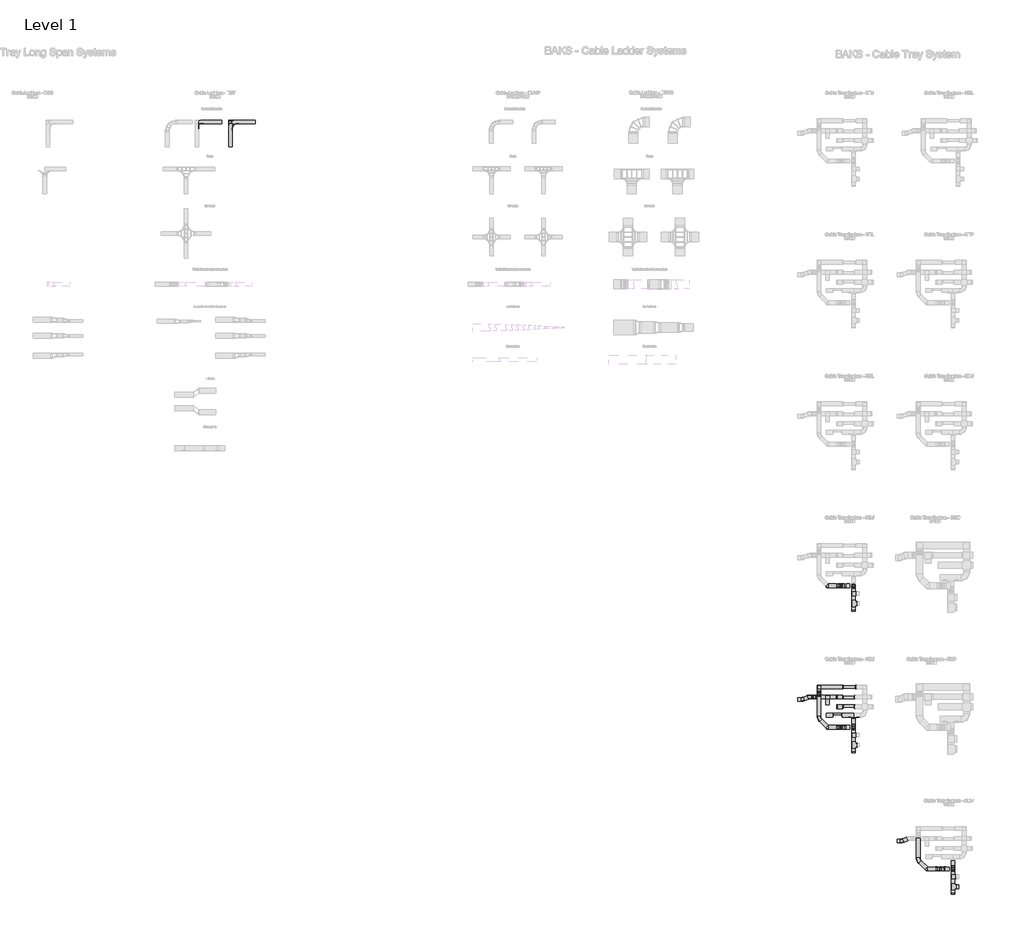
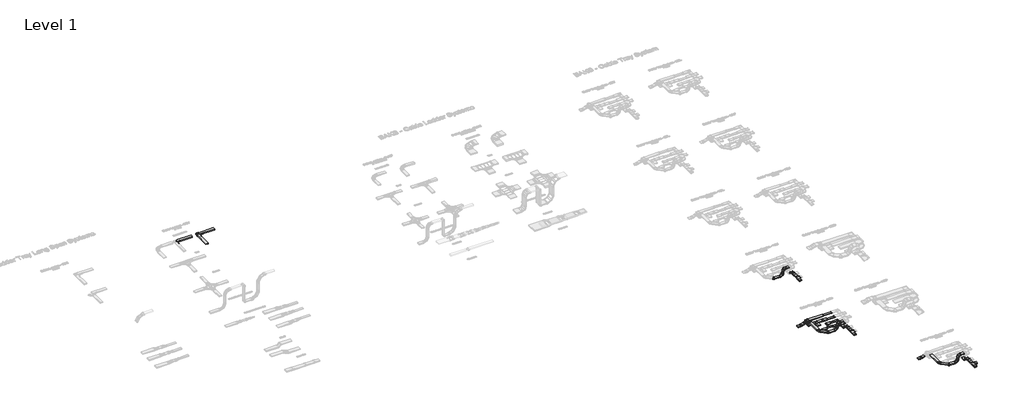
# One storey, part 18 of 106: 76 cable carrier fittings, 49 cable carrier segments.
"""IFC4 building model written with IfcOpenShell, lengths in millimetres."""

from ifc_helpers import new_model, si_unit, frame, origin, place, context, project, spatial, polyline, outline, extrude, transform, mapped, element, save
from components import cable_carrier_fitting_74346276, cable_carrier_fitting_f2f9dd5a, cable_carrier_fitting_50edb55a, cable_carrier_fitting_132c6996, cable_carrier_fitting_cb057536, cable_carrier_fitting_d4f283aa, cable_carrier_fitting_389af67d, cable_carrier_fitting_ab346bf8, cable_carrier_fitting_c163f1ca, cable_carrier_fitting_32826c86, cable_carrier_fitting_42195290, cable_carrier_fitting_1d3f857e, cable_carrier_fitting_81c76d70, cable_carrier_fitting_e69bf5bc, cable_carrier_fitting_b7b75895, cable_carrier_fitting_0afdfe74, cable_carrier_fitting_3a6d649d, cable_carrier_fitting_2d5aa353, cable_carrier_fitting_83230dc4, cable_carrier_fitting_3cbe9e62, cable_carrier_fitting_c86838e9, cable_carrier_fitting_985dcf24, cable_carrier_fitting_ca5a2d19, cable_carrier_fitting_21169ac5, cable_carrier_fitting_0a0ebc2e, cable_carrier_fitting_a42b7499, cable_carrier_fitting_8394cd73, cable_carrier_fitting_46bfce34, cable_carrier_fitting_f50788b4, cable_carrier_fitting_851eb94e, cable_carrier_fitting_844d2b92, cable_carrier_fitting_c0e00dde

model = new_model("IFC4")

# Units and contexts
model_context = context("Model", 3, world=origin())
ifc_project = project(units=[si_unit("LENGTHUNIT", "METRE", prefix="MILLI")], contexts=[model_context])

# Site, building, storey
site = spatial("IfcSite", under=ifc_project)
building = spatial("IfcBuilding", under=site)
storey = spatial("IfcBuildingStorey", under=building, Name="Level 1", Elevation=0.0)

# Cable carrier fittings
placement = place(None, origin())
cable_carrier_fitting_shape = cable_carrier_fitting_74346276(model_context)
element("IfcCableCarrierFitting", 1, ObjectType="BAKS_LDLS_CONN_Inner extension straight connector_LDUW : LDUW_H100", at=placement, inside=storey, context=model_context, shape_type="MappedRepresentation", body=[
    mapped(cable_carrier_fitting_shape, transform((109719.5117541, 69122.6565861, 55.0), x_axis=(-1.0, 0.0, 0.0), y_axis=(0.0, -1.0, 0.0), z_axis=(0.0, 0.0, 1.0))),
])
cable_carrier_fitting_2_shape = cable_carrier_fitting_f2f9dd5a(model_context)
element("IfcCableCarrierFitting", 2, ObjectType="BAKS_LDLS_CONN_Outer straight connector angled_LKUZ : LKUZ_H100", at=placement, inside=storey, context=model_context, shape_type="MappedRepresentation", body=[
    mapped(cable_carrier_fitting_2_shape, transform((109419.5117541, 69422.6565861, 55.0), x_axis=(-1.0, 0.0, 0.0), y_axis=(0.0, -1.0, 0.0), z_axis=(0.0, 0.0, 1.0))),
])
cable_carrier_fitting_3_shape = cable_carrier_fitting_50edb55a(model_context)
element("IfcCableCarrierFitting", 3, ObjectType="BAKS_LDLS_BEND_LDDSC Extension arch set_LDUWxLKUZ : LDDSC_H100", at=placement, inside=storey, context=model_context, shape_type="MappedRepresentation", body=[
    mapped(cable_carrier_fitting_3_shape, transform((109569.5117541, 69272.6565861, 55.0), x_axis=(-1.0, 0.0, 0.0), y_axis=(0.0, -1.0, 0.0), z_axis=(0.0, 0.0, 1.0))),
])
cable_carrier_fitting_4_shape = cable_carrier_fitting_132c6996(model_context)
element("IfcCableCarrierFitting", 4, ObjectType="BAKS_LDLS_CONN_Angle connector_LKSU : LKSUT_H100", at=placement, inside=storey, context=model_context, shape_type="MappedRepresentation", body=[
    mapped(cable_carrier_fitting_4_shape, transform((107019.5117541, 69122.6565861, 55.0), x_axis=(-1.0, 0.0, 0.0), y_axis=(0.0, -1.0, 0.0), z_axis=(0.0, 0.0, 1.0))),
])
cable_carrier_fitting_5_shape = cable_carrier_fitting_cb057536(model_context)
element("IfcCableCarrierFitting", 5, ObjectType="BAKS_BEND_Adjustable vertical bend element_EL : ELP_H100", at=placement, inside=storey, context=model_context, shape_type="MappedRepresentation", body=[
    mapped(cable_carrier_fitting_5_shape, transform((158633.2340999, 31931.3714214, 322.7153903), x_axis=(0.4999999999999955, 0.0, 0.8660254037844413), y_axis=(0.0, 1.0, 0.0), z_axis=(-0.8660254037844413, 0.0, 0.4999999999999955))),
])
element("IfcCableCarrierFitting", 6, ObjectType="BAKS_BEND_Adjustable vertical bend element_EL : ELP_H100", at=placement, inside=storey, context=model_context, shape_type="MappedRepresentation", body=[
    mapped(cable_carrier_fitting_5_shape, transform((158436.5219776, 31931.3714214, 223.0), x_axis=(0.8660254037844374, 0.0, 0.5000000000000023), y_axis=(0.0, 1.0, 0.0), z_axis=(-0.5000000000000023, 0.0, 0.8660254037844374))),
])
element("IfcCableCarrierFitting", 7, ObjectType="BAKS_BEND_Adjustable vertical bend element_EL : ELP_H100", at=placement, inside=storey, context=model_context, shape_type="MappedRepresentation", body=[
    mapped(cable_carrier_fitting_5_shape, transform((158841.4494902, 31931.3714214, 936.9011537), x_axis=(0.8660254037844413, 0.0, 0.4999999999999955), y_axis=(0.0, -1.0, 0.0), z_axis=(0.4999999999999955, 0.0, -0.8660254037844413))),
])
element("IfcCableCarrierFitting", 8, ObjectType="BAKS_BEND_Adjustable vertical bend element_EL : ELP_H100", at=placement, inside=storey, context=model_context, shape_type="MappedRepresentation", body=[
    mapped(cable_carrier_fitting_5_shape, transform((158741.7340999, 31931.3714214, 740.1890314), x_axis=(0.5000000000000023, 0.0, 0.8660254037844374), y_axis=(0.0, -1.0, 0.0), z_axis=(0.8660254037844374, 0.0, -0.5000000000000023))),
])
element("IfcCableCarrierFitting", 9, ObjectType="BAKS_BEND_Adjustable vertical bend element_EL : ELP_H100", at=placement, inside=storey, context=model_context, shape_type="MappedRepresentation", body=[
    mapped(cable_carrier_fitting_5_shape, transform((158633.2340999, 20531.3714214, 322.7153903), x_axis=(0.4999999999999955, 0.0, 0.8660254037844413), y_axis=(0.0, 1.0, 0.0), z_axis=(-0.8660254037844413, 0.0, 0.4999999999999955))),
])
element("IfcCableCarrierFitting", 10, ObjectType="BAKS_BEND_Adjustable vertical bend element_EL : ELP_H100", at=placement, inside=storey, context=model_context, shape_type="MappedRepresentation", body=[
    mapped(cable_carrier_fitting_5_shape, transform((158436.5219776, 20531.3714214, 223.0), x_axis=(0.8660254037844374, 0.0, 0.5000000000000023), y_axis=(0.0, 1.0, 0.0), z_axis=(-0.5000000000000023, 0.0, 0.8660254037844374))),
])
element("IfcCableCarrierFitting", 11, ObjectType="BAKS_BEND_Adjustable vertical bend element_EL : ELP_H100", at=placement, inside=storey, context=model_context, shape_type="MappedRepresentation", body=[
    mapped(cable_carrier_fitting_5_shape, transform((158841.4494902, 20531.3714214, 936.9011537), x_axis=(0.8660254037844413, 0.0, 0.4999999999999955), y_axis=(0.0, -1.0, 0.0), z_axis=(0.4999999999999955, 0.0, -0.8660254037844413))),
])
element("IfcCableCarrierFitting", 12, ObjectType="BAKS_BEND_Adjustable vertical bend element_EL : ELP_H100", at=placement, inside=storey, context=model_context, shape_type="MappedRepresentation", body=[
    mapped(cable_carrier_fitting_5_shape, transform((158741.7340999, 20531.3714214, 740.1890314), x_axis=(0.5000000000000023, 0.0, 0.8660254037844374), y_axis=(0.0, -1.0, 0.0), z_axis=(0.8660254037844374, 0.0, -0.5000000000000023))),
])
element("IfcCableCarrierFitting", 13, ObjectType="BAKS_BEND_Adjustable vertical bend element_EL : ELP_H100", at=placement, inside=storey, context=model_context, shape_type="MappedRepresentation", body=[
    mapped(cable_carrier_fitting_5_shape, transform((166633.2340999, 9131.3714214, 322.7153903), x_axis=(0.4999999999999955, 0.0, 0.8660254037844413), y_axis=(0.0, 1.0, 0.0), z_axis=(-0.8660254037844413, 0.0, 0.4999999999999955))),
])
element("IfcCableCarrierFitting", 14, ObjectType="BAKS_BEND_Adjustable vertical bend element_EL : ELP_H100", at=placement, inside=storey, context=model_context, shape_type="MappedRepresentation", body=[
    mapped(cable_carrier_fitting_5_shape, transform((166436.5219776, 9131.3714214, 223.0), x_axis=(0.8660254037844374, 0.0, 0.5000000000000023), y_axis=(0.0, 1.0, 0.0), z_axis=(-0.5000000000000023, 0.0, 0.8660254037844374))),
])
element("IfcCableCarrierFitting", 15, ObjectType="BAKS_BEND_Adjustable vertical bend element_EL : ELP_H100", at=placement, inside=storey, context=model_context, shape_type="MappedRepresentation", body=[
    mapped(cable_carrier_fitting_5_shape, transform((166841.4494902, 9131.3714214, 936.9011537), x_axis=(0.8660254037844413, 0.0, 0.4999999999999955), y_axis=(0.0, -1.0, 0.0), z_axis=(0.4999999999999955, 0.0, -0.8660254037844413))),
])
element("IfcCableCarrierFitting", 16, ObjectType="BAKS_BEND_Adjustable vertical bend element_EL : ELP_H100", at=placement, inside=storey, context=model_context, shape_type="MappedRepresentation", body=[
    mapped(cable_carrier_fitting_5_shape, transform((166741.7340999, 9131.3714214, 740.1890314), x_axis=(0.5000000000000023, 0.0, 0.8660254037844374), y_axis=(0.0, -1.0, 0.0), z_axis=(0.8660254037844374, 0.0, -0.5000000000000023))),
])
cable_carrier_fitting_6_shape = cable_carrier_fitting_d4f283aa(model_context)
element("IfcCableCarrierFitting", 17, ObjectType="BAKS_Reducer : RK(S/L/P)J_H100", at=placement, inside=storey, context=model_context, shape_type="MappedRepresentation", body=[
    mapped(cable_carrier_fitting_6_shape, transform((159753.8329462, 29894.2974728, 432.5277378), x_axis=(0.0, 1.0, 0.0), y_axis=(-1.0, 0.0, 0.0), z_axis=(0.0, 0.0, 1.0))),
])
element("IfcCableCarrierFitting", 18, ObjectType="BAKS_Reducer : RK(S/L/P)J_H100", at=placement, inside=storey, context=model_context, shape_type="MappedRepresentation", body=[
    mapped(cable_carrier_fitting_6_shape, transform((158399.3329462, 22980.8714214, 0.0), x_axis=(1.0, 0.0, 0.0), y_axis=(0.0, 1.0, 0.0), z_axis=(0.0, 0.0, 1.0))),
])
element("IfcCableCarrierFitting", 19, ObjectType="BAKS_Reducer : RK(S/L/P)J_H100", at=placement, inside=storey, context=model_context, shape_type="MappedRepresentation", body=[
    mapped(cable_carrier_fitting_6_shape, transform((158399.3329462, 22980.8714214, 0.0), x_axis=(-1.0, 0.0, 0.0), y_axis=(0.0, -1.0, 0.0), z_axis=(0.0, 0.0, 1.0))),
])
element("IfcCableCarrierFitting", 20, ObjectType="BAKS_Reducer : RK(S/L/P)J_H100", at=placement, inside=storey, context=model_context, shape_type="MappedRepresentation", body=[
    mapped(cable_carrier_fitting_6_shape, transform((158377.8329462, 22180.8714214, 0.0), x_axis=(1.0, 0.0, 0.0), y_axis=(0.0, 1.0, 0.0), z_axis=(0.0, 0.0, 1.0))),
])
element("IfcCableCarrierFitting", 21, ObjectType="BAKS_Reducer : RK(S/L/P)J_H100", at=placement, inside=storey, context=model_context, shape_type="MappedRepresentation", body=[
    mapped(cable_carrier_fitting_6_shape, transform((159753.8329462, 18494.2974728, 432.5277378), x_axis=(0.0, 1.0, 0.0), y_axis=(-1.0, 0.0, 0.0), z_axis=(0.0, 0.0, 1.0))),
])
cable_carrier_fitting_7_shape = cable_carrier_fitting_389af67d(model_context)
element("IfcCableCarrierFitting", 22, ObjectType="BAKS_Reducer : RK(S/L/P)J_H100", at=placement, inside=storey, context=model_context, shape_type="MappedRepresentation", body=[
    mapped(cable_carrier_fitting_7_shape, transform((158856.8329462, 23780.8714214, 0.0), x_axis=(1.0, 0.0, 0.0), y_axis=(0.0, 1.0, 0.0), z_axis=(0.0, 0.0, 1.0))),
])
cable_carrier_fitting_8_shape = cable_carrier_fitting_ab346bf8(model_context)
element("IfcCableCarrierFitting", 23, ObjectType="BAKS_Reducer : RK(S/L/P)J_H100", at=placement, inside=storey, context=model_context, shape_type="MappedRepresentation", body=[
    mapped(cable_carrier_fitting_8_shape, transform((159856.8329462, 23780.8714214, 0.0), x_axis=(1.0, 0.0, 0.0), y_axis=(0.0, 1.0, 0.0), z_axis=(0.0, 0.0, 1.0))),
])
cable_carrier_fitting_9_shape = cable_carrier_fitting_c163f1ca(model_context)
element("IfcCableCarrierFitting", 24, ObjectType="BAKS_Reducer : RK(S/L/P)J_H100", at=placement, inside=storey, context=model_context, shape_type="MappedRepresentation", body=[
    mapped(cable_carrier_fitting_9_shape, transform((159761.8329462, 22930.8714214, 0.0), x_axis=(1.0, 0.0, 0.0), y_axis=(0.0, 1.0, 0.0), z_axis=(0.0, 0.0, 1.0))),
])
element("IfcCableCarrierFitting", 25, ObjectType="BAKS_Reducer : RK(S/L/P)J_H100", at=placement, inside=storey, context=model_context, shape_type="MappedRepresentation", body=[
    mapped(cable_carrier_fitting_9_shape, transform((158951.8329462, 22230.8714214, 0.0), x_axis=(-1.0, 0.0, 0.0), y_axis=(0.0, -1.0, 0.0), z_axis=(0.0, 0.0, 1.0))),
])
cable_carrier_fitting_10_shape = cable_carrier_fitting_32826c86(model_context)
element("IfcCableCarrierFitting", 26, ObjectType="BAKS_Reducer : RK(S/L/P)J_H100", at=placement, inside=storey, context=model_context, shape_type="MappedRepresentation", body=[
    mapped(cable_carrier_fitting_10_shape, transform((158951.8329462, 22930.8714214, 0.0), x_axis=(-1.0, 0.0, 0.0), y_axis=(0.0, -1.0, 0.0), z_axis=(0.0, 0.0, 1.0))),
])
element("IfcCableCarrierFitting", 27, ObjectType="BAKS_Reducer : RK(S/L/P)J_H100", at=placement, inside=storey, context=model_context, shape_type="MappedRepresentation", body=[
    mapped(cable_carrier_fitting_10_shape, transform((159761.8329462, 22230.8714214, 0.0), x_axis=(1.0, 0.0, 0.0), y_axis=(0.0, 1.0, 0.0), z_axis=(0.0, 0.0, 1.0))),
])
cable_carrier_fitting_11_shape = cable_carrier_fitting_42195290(model_context)
element("IfcCableCarrierFitting", 28, ObjectType="BAKS_Horizontal bend : KKJ/KKMJ_H100", at=placement, inside=storey, context=model_context, shape_type="MappedRepresentation", body=[
    mapped(cable_carrier_fitting_11_shape, transform((156956.8329462, 23780.8714214, 0.0), x_axis=(-1.0, 0.0, 0.0), y_axis=(0.0, -1.0, 0.0), z_axis=(0.0, 0.0, 1.0))),
])
cable_carrier_fitting_12_shape = cable_carrier_fitting_1d3f857e(model_context)
element("IfcCableCarrierFitting", 29, ObjectType="BAKS_Horizontal bend radius : KKPJ/KKMPJ_H100", at=placement, inside=storey, context=model_context, shape_type="MappedRepresentation", body=[
    mapped(cable_carrier_fitting_12_shape, transform((156956.8329462, 21230.8714214, 235.0), x_axis=(0.0, -1.0, 0.0), y_axis=(1.0, 0.0, 0.0), z_axis=(0.0, 0.0, 1.0))),
])
element("IfcCableCarrierFitting", 30, ObjectType="BAKS_Horizontal bend radius : KKPJ/KKMPJ_H100", at=placement, inside=storey, context=model_context, shape_type="MappedRepresentation", body=[
    mapped(cable_carrier_fitting_12_shape, transform((164956.8329462, 9830.8714214, 235.0), x_axis=(0.0, -1.0, 0.0), y_axis=(1.0, 0.0, 0.0), z_axis=(0.0, 0.0, 1.0))),
])
cable_carrier_fitting_13_shape = cable_carrier_fitting_81c76d70(model_context)
element("IfcCableCarrierFitting", 31, ObjectType="BAKS_Horizontal addon tee : TKDJ_H100", at=placement, inside=storey, context=model_context, shape_type="MappedRepresentation", body=[
    mapped(cable_carrier_fitting_13_shape, transform((159753.8329462, 21499.8714214, 0.0), x_axis=(1.0, 0.0, 0.0), y_axis=(0.0, 1.0, 0.0), z_axis=(0.0, 0.0, 1.0))),
])
cable_carrier_fitting_14_shape = cable_carrier_fitting_e69bf5bc(model_context)
element("IfcCableCarrierFitting", 32, ObjectType="BAKS_Reducer : RK(S/L/P)J_H100", at=placement, inside=storey, context=model_context, shape_type="MappedRepresentation", body=[
    mapped(cable_carrier_fitting_14_shape, transform((158750.8329462, 21599.8714214, 0.0), x_axis=(1.0, 0.0, 0.0), y_axis=(0.0, 1.0, 0.0), z_axis=(0.0, 0.0, 1.0))),
])
cable_carrier_fitting_15_shape = cable_carrier_fitting_b7b75895(model_context)
element("IfcCableCarrierFitting", 33, ObjectType="BAKS_Reducer : RK(S/L/P)J_H100", at=placement, inside=storey, context=model_context, shape_type="MappedRepresentation", body=[
    mapped(cable_carrier_fitting_15_shape, transform((158152.8329462, 21599.8714214, 0.0), x_axis=(-1.0, 0.0, 0.0), y_axis=(0.0, -1.0, 0.0), z_axis=(0.0, 0.0, 1.0))),
])
cable_carrier_fitting_16_shape = cable_carrier_fitting_0afdfe74(model_context)
element("IfcCableCarrierFitting", 34, ObjectType="BAKS_Horizontal tee : TKJ_H100", at=placement, inside=storey, context=model_context, shape_type="MappedRepresentation", body=[
    mapped(cable_carrier_fitting_16_shape, transform((159753.8329462, 31303.8631068, 432.5277378), x_axis=(0.0, 1.0, 0.0), y_axis=(-1.0, 0.0, 0.0), z_axis=(0.0, 0.0, 1.0))),
])
element("IfcCableCarrierFitting", 35, ObjectType="BAKS_Horizontal tee : TKJ_H100", at=placement, inside=storey, context=model_context, shape_type="MappedRepresentation", body=[
    mapped(cable_carrier_fitting_16_shape, transform((157656.3329462, 22980.8714214, 0.0), x_axis=(1.0, 0.0, 0.0), y_axis=(0.0, 1.0, 0.0), z_axis=(0.0, 0.0, 1.0))),
])
element("IfcCableCarrierFitting", 36, ObjectType="BAKS_Horizontal tee : TKJ_H100", at=placement, inside=storey, context=model_context, shape_type="MappedRepresentation", body=[
    mapped(cable_carrier_fitting_16_shape, transform((159753.8329462, 19903.8631068, 432.5277378), x_axis=(0.0, 1.0, 0.0), y_axis=(-1.0, 0.0, 0.0), z_axis=(0.0, 0.0, 1.0))),
])
cable_carrier_fitting_17_shape = cable_carrier_fitting_3a6d649d(model_context)
element("IfcCableCarrierFitting", 37, ObjectType="BAKS_Horizontal bend radius : KKPJ/KKMPJ_H100", at=placement, inside=storey, context=model_context, shape_type="MappedRepresentation", body=[
    mapped(cable_carrier_fitting_17_shape, transform((156186.1981218, 22980.8714214, 438.0), x_axis=(-1.0, 0.0, 0.0), y_axis=(0.0, -1.0, 0.0), z_axis=(0.0, 0.0, 1.0))),
])
element("IfcCableCarrierFitting", 38, ObjectType="BAKS_Horizontal bend radius : KKPJ/KKMPJ_H100", at=placement, inside=storey, context=model_context, shape_type="MappedRepresentation", body=[
    mapped(cable_carrier_fitting_17_shape, transform((155630.7130894, 22778.691404, 438.0), x_axis=(1.0, 0.0, 0.0), y_axis=(0.0, 1.0, 0.0), z_axis=(0.0, 0.0, 1.0))),
])
element("IfcCableCarrierFitting", 39, ObjectType="BAKS_Horizontal bend radius : KKPJ/KKMPJ_H100", at=placement, inside=storey, context=model_context, shape_type="MappedRepresentation", body=[
    mapped(cable_carrier_fitting_17_shape, transform((163630.7130894, 11378.691404, 438.0), x_axis=(1.0, 0.0, 0.0), y_axis=(0.0, 1.0, 0.0), z_axis=(0.0, 0.0, 1.0))),
])
cable_carrier_fitting_18_shape = cable_carrier_fitting_2d5aa353(model_context)
element("IfcCableCarrierFitting", 40, ObjectType="BAKS_BEND_Articulated connector_LGP : LGP_H100", at=placement, inside=storey, context=model_context, shape_type="MappedRepresentation", body=[
    mapped(cable_carrier_fitting_18_shape, transform((158457.3065873, 31781.3714214, 235.0), x_axis=(1.0, 0.0, 0.0), y_axis=(0.0, 0.0, 1.0), z_axis=(0.0, -1.0, 0.0))),
])
element("IfcCableCarrierFitting", 41, ObjectType="BAKS_BEND_Articulated connector_LGP : LGP_H100", at=placement, inside=storey, context=model_context, shape_type="MappedRepresentation", body=[
    mapped(cable_carrier_fitting_18_shape, transform((158457.3065873, 20381.3714214, 235.0), x_axis=(1.0, 0.0, 0.0), y_axis=(0.0, 0.0, 1.0), z_axis=(0.0, -1.0, 0.0))),
])
element("IfcCableCarrierFitting", 42, ObjectType="BAKS_BEND_Articulated connector_LGP : LGP_H100", at=placement, inside=storey, context=model_context, shape_type="MappedRepresentation", body=[
    mapped(cable_carrier_fitting_18_shape, transform((158753.7340999, 20681.3714214, 760.9736411), x_axis=(0.0, 0.0, 1.0), y_axis=(1.0, 0.0, 0.0), z_axis=(0.0, 1.0, 0.0))),
])
element("IfcCableCarrierFitting", 43, ObjectType="BAKS_BEND_Articulated connector_LGP : LGP_H100", at=placement, inside=storey, context=model_context, shape_type="MappedRepresentation", body=[
    mapped(cable_carrier_fitting_18_shape, transform((166457.3065873, 8981.3714214, 235.0), x_axis=(1.0, 0.0, 0.0), y_axis=(0.0, 0.0, 1.0), z_axis=(0.0, -1.0, 0.0))),
])
element("IfcCableCarrierFitting", 44, ObjectType="BAKS_BEND_Articulated connector_LGP : LGP_H100", at=placement, inside=storey, context=model_context, shape_type="MappedRepresentation", body=[
    mapped(cable_carrier_fitting_18_shape, transform((166753.7340999, 9281.3714214, 760.9736411), x_axis=(0.0, 0.0, 1.0), y_axis=(1.0, 0.0, 0.0), z_axis=(0.0, 1.0, 0.0))),
])
cable_carrier_fitting_19_shape = cable_carrier_fitting_83230dc4(model_context)
element("IfcCableCarrierFitting", 45, ObjectType="BAKS_BEND_Articulated connector_LGP : LGP_H100", at=placement, inside=storey, context=model_context, shape_type="MappedRepresentation", body=[
    mapped(cable_carrier_fitting_19_shape, transform((158753.7340999, 31781.3714214, 531.4275126), x_axis=(0.4999999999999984, 0.0, 0.8660254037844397), y_axis=(-0.8660254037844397, 0.0, 0.4999999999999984), z_axis=(0.0, -1.0, 0.0))),
])
element("IfcCableCarrierFitting", 46, ObjectType="BAKS_BEND_Articulated connector_LGP : LGP_H100", at=placement, inside=storey, context=model_context, shape_type="MappedRepresentation", body=[
    mapped(cable_carrier_fitting_19_shape, transform((158753.7340999, 20381.3714214, 531.4275126), x_axis=(0.4999999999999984, 0.0, 0.8660254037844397), y_axis=(-0.8660254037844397, 0.0, 0.4999999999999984), z_axis=(0.0, -1.0, 0.0))),
])
element("IfcCableCarrierFitting", 47, ObjectType="BAKS_BEND_Articulated connector_LGP : LGP_H100", at=placement, inside=storey, context=model_context, shape_type="MappedRepresentation", body=[
    mapped(cable_carrier_fitting_19_shape, transform((159050.1616126, 20681.3714214, 1057.4011537), x_axis=(0.8660254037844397, 0.0, 0.4999999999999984), y_axis=(0.4999999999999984, 0.0, -0.8660254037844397), z_axis=(0.0, 1.0, 0.0))),
])
element("IfcCableCarrierFitting", 48, ObjectType="BAKS_BEND_Articulated connector_LGP : LGP_H100", at=placement, inside=storey, context=model_context, shape_type="MappedRepresentation", body=[
    mapped(cable_carrier_fitting_19_shape, transform((166753.7340999, 8981.3714214, 531.4275126), x_axis=(0.4999999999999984, 0.0, 0.8660254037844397), y_axis=(-0.8660254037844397, 0.0, 0.4999999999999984), z_axis=(0.0, -1.0, 0.0))),
])
element("IfcCableCarrierFitting", 49, ObjectType="BAKS_BEND_Articulated connector_LGP : LGP_H100", at=placement, inside=storey, context=model_context, shape_type="MappedRepresentation", body=[
    mapped(cable_carrier_fitting_19_shape, transform((167050.1616126, 9281.3714214, 1057.4011537), x_axis=(0.8660254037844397, 0.0, 0.4999999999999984), y_axis=(0.4999999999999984, 0.0, -0.8660254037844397), z_axis=(0.0, 1.0, 0.0))),
])
cable_carrier_fitting_20_shape = cable_carrier_fitting_3cbe9e62(model_context)
element("IfcCableCarrierFitting", 50, ObjectType="BAKS_BEND_Articulated connector_LGP : LGP_H100", at=placement, inside=storey, context=model_context, shape_type="MappedRepresentation", body=[
    mapped(cable_carrier_fitting_20_shape, transform((159050.1616126, 31781.3714214, 1057.4011537), x_axis=(0.8660254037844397, 0.0, 0.4999999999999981), y_axis=(-0.4999999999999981, 0.0, 0.8660254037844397), z_axis=(0.0, -1.0, 0.0))),
])
element("IfcCableCarrierFitting", 51, ObjectType="BAKS_BEND_Articulated connector_LGP : LGP_H100", at=placement, inside=storey, context=model_context, shape_type="MappedRepresentation", body=[
    mapped(cable_carrier_fitting_20_shape, transform((158753.7340999, 20681.3714214, 531.4275126), x_axis=(0.4999999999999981, 0.0, 0.8660254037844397), y_axis=(0.8660254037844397, 0.0, -0.4999999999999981), z_axis=(0.0, 1.0, 0.0))),
])
element("IfcCableCarrierFitting", 52, ObjectType="BAKS_BEND_Articulated connector_LGP : LGP_H100", at=placement, inside=storey, context=model_context, shape_type="MappedRepresentation", body=[
    mapped(cable_carrier_fitting_20_shape, transform((159050.1616126, 20381.3714214, 1057.4011537), x_axis=(0.8660254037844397, 0.0, 0.4999999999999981), y_axis=(-0.4999999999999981, 0.0, 0.8660254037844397), z_axis=(0.0, -1.0, 0.0))),
])
element("IfcCableCarrierFitting", 53, ObjectType="BAKS_BEND_Articulated connector_LGP : LGP_H100", at=placement, inside=storey, context=model_context, shape_type="MappedRepresentation", body=[
    mapped(cable_carrier_fitting_20_shape, transform((166753.7340999, 9281.3714214, 531.4275126), x_axis=(0.4999999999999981, 0.0, 0.8660254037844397), y_axis=(0.8660254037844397, 0.0, -0.4999999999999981), z_axis=(0.0, 1.0, 0.0))),
])
element("IfcCableCarrierFitting", 54, ObjectType="BAKS_BEND_Articulated connector_LGP : LGP_H100", at=placement, inside=storey, context=model_context, shape_type="MappedRepresentation", body=[
    mapped(cable_carrier_fitting_20_shape, transform((167050.1616126, 8981.3714214, 1057.4011537), x_axis=(0.8660254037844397, 0.0, 0.4999999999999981), y_axis=(-0.4999999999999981, 0.0, 0.8660254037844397), z_axis=(0.0, -1.0, 0.0))),
])
cable_carrier_fitting_21_shape = cable_carrier_fitting_c86838e9(model_context)
element("IfcCableCarrierFitting", 55, ObjectType="BAKS_BEND_Articulated connector_LGP : LGP_H100", at=placement, inside=storey, context=model_context, shape_type="MappedRepresentation", body=[
    mapped(cable_carrier_fitting_21_shape, transform((158753.7340999, 31781.3714214, 760.9736411), x_axis=(0.0, 0.0, 1.0), y_axis=(-1.0, 0.0, 0.0), z_axis=(0.0, -1.0, 0.0))),
])
element("IfcCableCarrierFitting", 56, ObjectType="BAKS_BEND_Articulated connector_LGP : LGP_H100", at=placement, inside=storey, context=model_context, shape_type="MappedRepresentation", body=[
    mapped(cable_carrier_fitting_21_shape, transform((158457.3065873, 20681.3714214, 235.0), x_axis=(1.0, 0.0, 0.0), y_axis=(0.0, 0.0, -1.0), z_axis=(0.0, 1.0, 0.0))),
])
element("IfcCableCarrierFitting", 57, ObjectType="BAKS_BEND_Articulated connector_LGP : LGP_H100", at=placement, inside=storey, context=model_context, shape_type="MappedRepresentation", body=[
    mapped(cable_carrier_fitting_21_shape, transform((158753.7340999, 20381.3714214, 760.9736411), x_axis=(0.0, 0.0, 1.0), y_axis=(-1.0, 0.0, 0.0), z_axis=(0.0, -1.0, 0.0))),
])
element("IfcCableCarrierFitting", 58, ObjectType="BAKS_BEND_Articulated connector_LGP : LGP_H100", at=placement, inside=storey, context=model_context, shape_type="MappedRepresentation", body=[
    mapped(cable_carrier_fitting_21_shape, transform((166457.3065873, 9281.3714214, 235.0), x_axis=(1.0, 0.0, 0.0), y_axis=(0.0, 0.0, -1.0), z_axis=(0.0, 1.0, 0.0))),
])
element("IfcCableCarrierFitting", 59, ObjectType="BAKS_BEND_Articulated connector_LGP : LGP_H100", at=placement, inside=storey, context=model_context, shape_type="MappedRepresentation", body=[
    mapped(cable_carrier_fitting_21_shape, transform((166753.7340999, 8981.3714214, 760.9736411), x_axis=(0.0, 0.0, 1.0), y_axis=(-1.0, 0.0, 0.0), z_axis=(0.0, -1.0, 0.0))),
])
cable_carrier_fitting_22_shape = cable_carrier_fitting_985dcf24(model_context)
element("IfcCableCarrierFitting", 60, ObjectType="BAKS_Horizontal bend : KKJ/KKMJ_H100", at=placement, inside=storey, context=model_context, shape_type="MappedRepresentation", body=[
    mapped(cable_carrier_fitting_22_shape, transform((157656.3329462, 31931.3714214, 235.0), x_axis=(0.707106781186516, -0.707106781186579, 0.0), y_axis=(0.707106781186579, 0.707106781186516, 0.0), z_axis=(0.0, 0.0, 1.0))),
])
element("IfcCableCarrierFitting", 61, ObjectType="BAKS_Horizontal bend : KKJ/KKMJ_H100", at=placement, inside=storey, context=model_context, shape_type="MappedRepresentation", body=[
    mapped(cable_carrier_fitting_22_shape, transform((157656.3329462, 20531.3714214, 235.0), x_axis=(0.707106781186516, -0.707106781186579, 0.0), y_axis=(0.707106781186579, 0.707106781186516, 0.0), z_axis=(0.0, 0.0, 1.0))),
])
cable_carrier_fitting_23_shape = cable_carrier_fitting_ca5a2d19(model_context)
element("IfcCableCarrierFitting", 62, ObjectType="BAKS_Horizontal tee radius : TKPJ_H100", at=placement, inside=storey, context=model_context, shape_type="MappedRepresentation", body=[
    mapped(cable_carrier_fitting_23_shape, transform((159753.8329462, 30496.5802898, 432.5277378), x_axis=(0.0, 1.0, 0.0), y_axis=(-1.0, 0.0, 0.0), z_axis=(0.0, 0.0, 1.0))),
])
element("IfcCableCarrierFitting", 63, ObjectType="BAKS_Horizontal tee radius : TKPJ_H100", at=placement, inside=storey, context=model_context, shape_type="MappedRepresentation", body=[
    mapped(cable_carrier_fitting_23_shape, transform((159753.8329462, 19096.5802898, 432.5277378), x_axis=(0.0, 1.0, 0.0), y_axis=(-1.0, 0.0, 0.0), z_axis=(0.0, 0.0, 1.0))),
])
element("IfcCableCarrierFitting", 64, ObjectType="BAKS_Reducer : RK(S/L/P)P_H100", at=placement, inside=storey, context=model_context, shape_type="MappedRepresentation", body=[
    mapped(cable_carrier_fitting_6_shape, transform((167753.8329462, 7094.2974728, 432.5277378), x_axis=(0.0, 1.0, 0.0), y_axis=(-1.0, 0.0, 0.0), z_axis=(0.0, 0.0, 1.0))),
])
cable_carrier_fitting_24_shape = cable_carrier_fitting_21169ac5(model_context)
element("IfcCableCarrierFitting", 65, ObjectType="BAKS_Horizontal tee radius : TKPP_H100", at=placement, inside=storey, context=model_context, shape_type="MappedRepresentation", body=[
    mapped(cable_carrier_fitting_24_shape, transform((167753.8329462, 7696.5802898, 432.5277378), x_axis=(0.0, 1.0, 0.0), y_axis=(-1.0, 0.0, 0.0), z_axis=(0.0, 0.0, 1.0))),
])
element("IfcCableCarrierFitting", 66, ObjectType="BAKS_Horizontal tee : TKP_H100", at=placement, inside=storey, context=model_context, shape_type="MappedRepresentation", body=[
    mapped(cable_carrier_fitting_16_shape, transform((167753.8329462, 8503.8631068, 432.5277378), x_axis=(0.0, 1.0, 0.0), y_axis=(-1.0, 0.0, 0.0), z_axis=(0.0, 0.0, 1.0))),
])
element("IfcCableCarrierFitting", 67, ObjectType="BAKS_Horizontal bend : KKP/KKMP_H100", at=placement, inside=storey, context=model_context, shape_type="MappedRepresentation", body=[
    mapped(cable_carrier_fitting_22_shape, transform((165656.3329462, 9131.3714214, 235.0), x_axis=(0.707106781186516, -0.707106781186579, 0.0), y_axis=(0.707106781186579, 0.707106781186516, 0.0), z_axis=(0.0, 0.0, 1.0))),
])
cable_carrier_fitting_25_shape = cable_carrier_fitting_0a0ebc2e(model_context)
element("IfcCableCarrierFitting", 68, ObjectType="BAKS_KK_Vertical bend INTERNAL_LU : LUNJ_H100", at=placement, inside=storey, context=model_context, shape_type="MappedRepresentation", body=[
    mapped(cable_carrier_fitting_25_shape, transform((156556.3329462, 22980.8714214, 438.0), x_axis=(0.0, 0.0, 1.0), y_axis=(-1.0, 0.0, 0.0), z_axis=(0.0, -1.0, 0.0))),
])
cable_carrier_fitting_26_shape = cable_carrier_fitting_a42b7499(model_context)
element("IfcCableCarrierFitting", 69, ObjectType="BAKS_KK_Vertical bend EXTERNAL_LU : LUMNP_H100", at=placement, inside=storey, context=model_context, shape_type="MappedRepresentation", body=[
    mapped(cable_carrier_fitting_26_shape, transform((167753.8329462, 9258.7056523, 0.0), x_axis=(0.0, -1.0, 0.0), y_axis=(0.0, 0.0, 1.0), z_axis=(-1.0, 0.0, 0.0))),
])
cable_carrier_fitting_27_shape = cable_carrier_fitting_8394cd73(model_context)
element("IfcCableCarrierFitting", 70, ObjectType="BAKS_KK_Vertical bend INTERNAL_LU : LUMNP_H100", at=placement, inside=storey, context=model_context, shape_type="MappedRepresentation", body=[
    mapped(cable_carrier_fitting_27_shape, transform((167753.8329462, 9057.0146558, 432.5277378), x_axis=(0.0, -0.42261826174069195, 0.9063077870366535), y_axis=(0.0, -0.9063077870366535, -0.42261826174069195), z_axis=(1.0, 0.0, 0.0))),
])
cable_carrier_fitting_28_shape = cable_carrier_fitting_46bfce34(model_context)
element("IfcCableCarrierFitting", 71, ObjectType="BAKS_KK_Vertical bend EXTERNAL_LU : LUNJ_H100", at=placement, inside=storey, context=model_context, shape_type="MappedRepresentation", body=[
    mapped(cable_carrier_fitting_28_shape, transform((156556.3329462, 22980.8714214, 0.0), x_axis=(-1.0, 0.0, 0.0), y_axis=(0.0, 0.0, 1.0), z_axis=(0.0, 1.0, 0.0))),
])
cable_carrier_fitting_29_shape = cable_carrier_fitting_f50788b4(model_context)
element("IfcCableCarrierFitting", 72, ObjectType="BAKS_KK_Vertical bend EXTERNAL_LU : LUMNJ_H100", at=placement, inside=storey, context=model_context, shape_type="MappedRepresentation", body=[
    mapped(cable_carrier_fitting_29_shape, transform((159753.8329462, 20658.7056523, 0.0), x_axis=(0.0, -1.0, 0.0), y_axis=(0.0, 0.0, 1.0), z_axis=(-1.0, 0.0, 0.0))),
])
cable_carrier_fitting_30_shape = cable_carrier_fitting_851eb94e(model_context)
element("IfcCableCarrierFitting", 73, ObjectType="BAKS_KK_Vertical bend EXTERNAL_LU : LUMNJ_H100", at=placement, inside=storey, context=model_context, shape_type="MappedRepresentation", body=[
    mapped(cable_carrier_fitting_30_shape, transform((156956.8329462, 23360.8714214, 0.0), x_axis=(0.0, -1.0, 0.0), y_axis=(0.0, 0.0, 1.0), z_axis=(-1.0, 0.0, 0.0))),
])
cable_carrier_fitting_31_shape = cable_carrier_fitting_844d2b92(model_context)
element("IfcCableCarrierFitting", 74, ObjectType="BAKS_KK_Vertical bend INTERNAL_LU : LUMNJ_H100", at=placement, inside=storey, context=model_context, shape_type="MappedRepresentation", body=[
    mapped(cable_carrier_fitting_31_shape, transform((159753.8329462, 31857.0146558, 432.5277378), x_axis=(0.0, -0.42261826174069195, 0.9063077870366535), y_axis=(0.0, -0.9063077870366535, -0.42261826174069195), z_axis=(1.0, 0.0, 0.0))),
])
element("IfcCableCarrierFitting", 75, ObjectType="BAKS_KK_Vertical bend INTERNAL_LU : LUMNJ_H100", at=placement, inside=storey, context=model_context, shape_type="MappedRepresentation", body=[
    mapped(cable_carrier_fitting_31_shape, transform((159753.8329462, 20457.0146558, 432.5277378), x_axis=(0.0, -0.42261826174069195, 0.9063077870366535), y_axis=(0.0, -0.9063077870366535, -0.42261826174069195), z_axis=(1.0, 0.0, 0.0))),
])
cable_carrier_fitting_32_shape = cable_carrier_fitting_c0e00dde(model_context)
element("IfcCableCarrierFitting", 76, ObjectType="BAKS_KK_Vertical bend INTERNAL_LU : LUMNJ_H100", at=placement, inside=storey, context=model_context, shape_type="MappedRepresentation", body=[
    mapped(cable_carrier_fitting_32_shape, transform((156956.8329462, 23125.8714214, 235.0), x_axis=(0.0, 1.0, 0.0), y_axis=(0.0, 0.0, -1.0), z_axis=(-1.0, 0.0, 0.0))),
])

# Cable carrier segments
element("IfcCableCarrierSegment", 77, ObjectType="BAKS - Ladder long span H100 (DST)", at=placement, inside=storey, context=model_context, shape_type="SweptSolid", body=[
    extrude(outline(polyline([(107019.5117443, 69122.6689549), (107019.5117639, 69422.6689549), (108869.511765, 69422.6688346), (108869.5117454, 69122.6688346), (107019.5117443, 69122.6689549)])), frame((0.0, 0.0, 5.0), z_axis=(0.0, 0.0, 1.0), x_axis=(1.0, 0.0, 0.0)), (0.0, 0.0, 1.0), 100.0),
])
element("IfcCableCarrierSegment", 78, ObjectType="BAKS - Ladder long span H100 (DST)", at=placement, inside=storey, context=model_context, shape_type="SweptSolid", body=[
    extrude(outline(polyline([(109719.5118744, 69122.6689549), (109719.5116338, 69422.6689549), (111569.5116349, 69422.6704392), (111569.5118755, 69122.6704392), (109719.5118744, 69122.6689549)])), frame((0.0, 0.0, 5.0), z_axis=(0.0, 0.0, 1.0), x_axis=(1.0, 0.0, 0.0)), (0.0, 0.0, 1.0), 100.0),
])
element("IfcCableCarrierSegment", 79, ObjectType="BAKS - Ladder long span H100 (DST)", at=placement, inside=storey, context=model_context, shape_type="SweptSolid", body=[
    extrude(outline(polyline([(109419.4998097, 69122.6690711), (109719.4998097, 69122.6688387), (109719.4983765, 67272.6564699), (109419.4983765, 67272.6567023), (109419.4998097, 69122.6690711)])), frame((0.0, 0.0, 5.0), z_axis=(0.0, 0.0, 1.0), x_axis=(1.0, 0.0, 0.0)), (0.0, 0.0, 1.0), 100.0),
])
element("IfcCableCarrierSegment", 80, ObjectType="BAKS - Cable tray H100 (KGJ)", at=placement, inside=storey, context=model_context, shape_type="SweptSolid", body=[
    extrude(outline(polyline([(159150.1616126, 31781.3714214), (159150.1616126, 32081.3714214), (159453.7340999, 32081.3714214), (159453.7340999, 31781.3714214), (159150.1616126, 31781.3714214)])), frame((0.0, 0.0, 1007.4011537), z_axis=(0.0, 0.0, 1.0), x_axis=(1.0, 0.0, 0.0)), (0.0, 0.0, 1.0), 100.0),
])
element("IfcCableCarrierSegment", 81, ObjectType="BAKS - Cable tray H100 (KGJ)", at=placement, inside=storey, context=model_context, shape_type="SweptSolid", body=[
    extrude(outline(polyline([(-150.0, 108.113883), (-150.0, 208.113883), (150.0, 208.113883), (150.0, 108.113883), (-150.0, 108.113883)])), frame((159753.8329462, 31845.0926162, 83.9653139), z_axis=(0.0, -0.4226182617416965, 0.9063077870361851), x_axis=(1.0, 0.0, 0.0)), (0.0, 0.0, 1.0), 144.4911796),
])
element("IfcCableCarrierSegment", 82, ObjectType="BAKS - Cable tray H100 (KGJ)", at=placement, inside=storey, context=model_context, shape_type="SweptSolid", body=[
    extrude(outline(polyline([(159603.8329462, 30201.5802898), (159903.8329462, 30201.5802898), (159903.8329462, 29989.2974728), (159603.8329462, 29989.2974728), (159603.8329462, 30201.5802898)])), frame((0.0, 0.0, 382.5277378), z_axis=(0.0, 0.0, 1.0), x_axis=(1.0, 0.0, 0.0)), (0.0, 0.0, 1.0), 100.0),
])
element("IfcCableCarrierSegment", 83, ObjectType="BAKS - Cable tray H100 (KGJ)", at=placement, inside=storey, context=model_context, shape_type="SweptSolid", body=[
    extrude(outline(polyline([(159603.8329462, 31098.8631068), (159903.8329462, 31098.8631068), (159903.8329462, 30791.5802898), (159603.8329462, 30791.5802898), (159603.8329462, 31098.8631068)])), frame((0.0, 0.0, 382.5277378), z_axis=(0.0, 0.0, 1.0), x_axis=(1.0, 0.0, 0.0)), (0.0, 0.0, 1.0), 100.0),
])
element("IfcCableCarrierSegment", 84, ObjectType="BAKS - Cable tray H100 (KGJ)", at=placement, inside=storey, context=model_context, shape_type="SweptSolid", body=[
    extrude(outline(polyline([(159903.8329462, 31508.8631068), (159603.8329462, 31508.8631068), (159603.8329462, 31690.6394679), (159903.8329462, 31690.6394679), (159903.8329462, 31508.8631068)])), frame((0.0, 0.0, 382.5277378), z_axis=(0.0, 0.0, 1.0), x_axis=(1.0, 0.0, 0.0)), (0.0, 0.0, 1.0), 100.0),
])
element("IfcCableCarrierSegment", 85, ObjectType="BAKS - Cable tray H100 (KGJ)", at=placement, inside=storey, context=model_context, shape_type="SweptSolid", body=[
    extrude(outline(polyline([(-50.0, 308.113883), (50.0, 308.113883), (50.0, 8.113883), (-50.0, 8.113883), (-50.0, 308.113883)])), frame((158753.7340999, 31773.2575384, 631.4275126), z_axis=(0.0, 1.5272496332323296e-12, 1.0), x_axis=(1.0, 0.0, 0.0)), (0.0, 0.0, 1.0), 5.6721051),
])
element("IfcCableCarrierSegment", 86, ObjectType="BAKS - Cable tray H100 (KGJ)", at=placement, inside=storey, context=model_context, shape_type="SweptSolid", body=[
    extrude(outline(polyline([(158357.3065873, 32081.3714214), (158357.3065873, 31781.3714214), (157738.1045909, 31781.3714214), (157738.1045909, 32081.3714214), (158357.3065873, 32081.3714214)])), frame((0.0, 0.0, 185.0), z_axis=(0.0, 0.0, 1.0), x_axis=(1.0, 0.0, 0.0)), (0.0, 0.0, 1.0), 100.0),
])
element("IfcCableCarrierSegment", 87, ObjectType="BAKS - Cable tray H100 (KCJ)", at=placement, inside=storey, context=model_context, shape_type="SweptSolid", body=[
    extrude(outline(polyline([(158951.8329462, 23680.8714214), (158951.8329462, 23880.8714214), (159856.8329462, 23880.8714214), (159856.8329462, 23680.8714214), (158951.8329462, 23680.8714214)])), frame((0.0, 0.0, -50.0), z_axis=(0.0, 0.0, 1.0), x_axis=(1.0, 0.0, 0.0)), (0.0, 0.0, 1.0), 100.0),
])
element("IfcCableCarrierSegment", 88, ObjectType="BAKS - Cable tray H100 (KCJ)", at=placement, inside=storey, context=model_context, shape_type="SweptSolid", body=[
    extrude(outline(polyline([(159761.8329462, 23030.8714214), (159761.8329462, 22830.8714214), (158951.8329462, 22830.8714214), (158951.8329462, 23030.8714214), (159761.8329462, 23030.8714214)])), frame((0.0, 0.0, -50.0), z_axis=(0.0, 0.0, 1.0), x_axis=(1.0, 0.0, 0.0)), (0.0, 0.0, 1.0), 100.0),
])
element("IfcCableCarrierSegment", 89, ObjectType="BAKS - Cable tray H100 (KCJ)", at=placement, inside=storey, context=model_context, shape_type="SweptSolid", body=[
    extrude(outline(polyline([(158494.3329462, 22830.8714214), (158494.3329462, 23130.8714214), (158856.8329462, 23130.8714214), (158856.8329462, 22830.8714214), (158494.3329462, 22830.8714214)])), frame((0.0, 0.0, -50.0), z_axis=(0.0, 0.0, 1.0), x_axis=(1.0, 0.0, 0.0)), (0.0, 0.0, 1.0), 100.0),
])
element("IfcCableCarrierSegment", 90, ObjectType="BAKS - Cable tray H100 (KCJ)", at=placement, inside=storey, context=model_context, shape_type="SweptSolid", body=[
    extrude(outline(polyline([(159761.8329462, 22330.8714214), (159761.8329462, 22130.8714214), (158951.8329462, 22130.8714214), (158951.8329462, 22330.8714214), (159761.8329462, 22330.8714214)])), frame((0.0, 0.0, -50.0), z_axis=(0.0, 0.0, 1.0), x_axis=(1.0, 0.0, 0.0)), (0.0, 0.0, 1.0), 100.0),
])
element("IfcCableCarrierSegment", 91, ObjectType="BAKS - Cable tray H100 (KCJ)", at=placement, inside=storey, context=model_context, shape_type="SweptSolid", body=[
    extrude(outline(polyline([(158472.8329462, 22030.8714214), (158472.8329462, 22330.8714214), (158856.8329462, 22330.8714214), (158856.8329462, 22030.8714214), (158472.8329462, 22030.8714214)])), frame((0.0, 0.0, -50.0), z_axis=(0.0, 0.0, 1.0), x_axis=(1.0, 0.0, 0.0)), (0.0, 0.0, 1.0), 100.0),
])
element("IfcCableCarrierSegment", 92, ObjectType="BAKS - Cable tray H100 (KCJ)", at=placement, inside=storey, context=model_context, shape_type="SweptSolid", body=[
    extrude(outline(polyline([(157451.3329462, 23130.8714214), (157451.3329462, 22830.8714214), (156775.3329462, 22830.8714214), (156775.3329462, 23130.8714214), (157451.3329462, 23130.8714214)])), frame((0.0, 0.0, -50.0), z_axis=(0.0, 0.0, 1.0), x_axis=(1.0, 0.0, 0.0)), (0.0, 0.0, 1.0), 100.0),
])
element("IfcCableCarrierSegment", 93, ObjectType="BAKS - Cable tray H100 (KCJ)", at=placement, inside=storey, context=model_context, shape_type="SweptSolid", body=[
    extrude(outline(polyline([(157506.3329462, 22775.8714214), (157806.3329462, 22775.8714214), (157806.3329462, 22355.8714214), (157506.3329462, 22355.8714214), (157506.3329462, 22775.8714214)])), frame((0.0, 0.0, -50.0), z_axis=(0.0, 0.0, 1.0), x_axis=(1.0, 0.0, 0.0)), (0.0, 0.0, 1.0), 100.0),
])
element("IfcCableCarrierSegment", 94, ObjectType="BAKS - Cable tray H100 (KCJ)", at=placement, inside=storey, context=model_context, shape_type="SweptSolid", body=[
    extrude(outline(polyline([(158304.3329462, 23130.8714214), (158304.3329462, 22830.8714214), (157861.3329462, 22830.8714214), (157861.3329462, 23130.8714214), (158304.3329462, 23130.8714214)])), frame((0.0, 0.0, -50.0), z_axis=(0.0, 0.0, 1.0), x_axis=(1.0, 0.0, 0.0)), (0.0, 0.0, 1.0), 100.0),
])
element("IfcCableCarrierSegment", 95, ObjectType="BAKS - Cable tray H100 (KCJ)", at=placement, inside=storey, context=model_context, shape_type="SweptSolid", body=[
    extrude(outline(polyline([(157106.8329462, 21450.9933545), (156806.8329462, 21450.9933545), (156806.8329462, 22991.8104549), (157106.8329462, 22991.8104549), (157106.8329462, 21450.9933545)])), frame((0.0, 0.0, 185.0), z_axis=(0.0, 0.0, 1.0), x_axis=(1.0, 0.0, 0.0)), (0.0, 0.0, 1.0), 100.0),
])
element("IfcCableCarrierSegment", 96, ObjectType="BAKS - Cable tray H100 (KCJ)", at=placement, inside=storey, context=model_context, shape_type="SweptSolid", body=[
    extrude(outline(polyline([(157006.4166406, 20969.1556926), (157218.548675, 21181.287727), (157704.577679, 20695.258723), (157492.4456446, 20483.1266887), (157006.4166406, 20969.1556926)])), frame((0.0, 0.0, 185.0), z_axis=(0.0, 0.0, 1.0), x_axis=(1.0, 0.0, 0.0)), (0.0, 0.0, 1.0), 100.0),
])
element("IfcCableCarrierSegment", 97, ObjectType="BAKS - Cable tray H100 (KCJ)", at=placement, inside=storey, context=model_context, shape_type="SweptSolid", body=[
    extrude(outline(polyline([(159150.1616126, 20381.3714214), (159150.1616126, 20681.3714214), (159453.7340999, 20681.3714214), (159453.7340999, 20381.3714214), (159150.1616126, 20381.3714214)])), frame((0.0, 0.0, 1007.4011537), z_axis=(0.0, 0.0, 1.0), x_axis=(1.0, 0.0, 0.0)), (0.0, 0.0, 1.0), 100.0),
])
element("IfcCableCarrierSegment", 98, ObjectType="BAKS - Cable tray H100 (KCJ)", at=placement, inside=storey, context=model_context, shape_type="SweptSolid", body=[
    extrude(outline(polyline([(159603.8329462, 21202.3314214), (159903.8329462, 21202.3314214), (159903.8329462, 20825.0808401), (159603.8329462, 20825.0808401), (159603.8329462, 21202.3314214)])), frame((0.0, 0.0, -50.0), z_axis=(0.0, 0.0, 1.0), x_axis=(1.0, 0.0, 0.0)), (0.0, 0.0, 1.0), 100.0),
])
element("IfcCableCarrierSegment", 99, ObjectType="BAKS - Cable tray H100 (KCJ)", at=placement, inside=storey, context=model_context, shape_type="SweptSolid", body=[
    extrude(outline(polyline([(-150.0, 108.113883), (-150.0, 208.113883), (150.0, 208.113883), (150.0, 108.113883), (-150.0, 108.113883)])), frame((159753.8329462, 20445.0926162, 83.9653139), z_axis=(0.0, -0.4226182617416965, 0.9063077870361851), x_axis=(1.0, 0.0, 0.0)), (0.0, 0.0, 1.0), 144.4911796),
])
element("IfcCableCarrierSegment", 100, ObjectType="BAKS - Cable tray H100 (KCJ)", at=placement, inside=storey, context=model_context, shape_type="SweptSolid", body=[
    extrude(outline(polyline([(157152.8329462, 23630.8714214), (157152.8329462, 23930.8714214), (158856.8329462, 23930.8714214), (158856.8329462, 23630.8714214), (157152.8329462, 23630.8714214)])), frame((0.0, 0.0, -50.0), z_axis=(0.0, 0.0, 1.0), x_axis=(1.0, 0.0, 0.0)), (0.0, 0.0, 1.0), 100.0),
])
element("IfcCableCarrierSegment", 101, ObjectType="BAKS - Cable tray H100 (KCJ)", at=placement, inside=storey, context=model_context, shape_type="SweptSolid", body=[
    extrude(outline(polyline([(159603.8329462, 18801.5802898), (159903.8329462, 18801.5802898), (159903.8329462, 18589.2974728), (159603.8329462, 18589.2974728), (159603.8329462, 18801.5802898)])), frame((0.0, 0.0, 382.5277378), z_axis=(0.0, 0.0, 1.0), x_axis=(1.0, 0.0, 0.0)), (0.0, 0.0, 1.0), 100.0),
])
element("IfcCableCarrierSegment", 102, ObjectType="BAKS - Cable tray H100 (KCJ)", at=placement, inside=storey, context=model_context, shape_type="SweptSolid", body=[
    extrude(outline(polyline([(159603.8329462, 19698.8631068), (159903.8329462, 19698.8631068), (159903.8329462, 19391.5802898), (159603.8329462, 19391.5802898), (159603.8329462, 19698.8631068)])), frame((0.0, 0.0, 382.5277378), z_axis=(0.0, 0.0, 1.0), x_axis=(1.0, 0.0, 0.0)), (0.0, 0.0, 1.0), 100.0),
])
element("IfcCableCarrierSegment", 103, ObjectType="BAKS - Cable tray H100 (KCJ)", at=placement, inside=storey, context=model_context, shape_type="SweptSolid", body=[
    extrude(outline(polyline([(159903.8329462, 20108.8631068), (159603.8329462, 20108.8631068), (159603.8329462, 20290.6394679), (159903.8329462, 20290.6394679), (159903.8329462, 20108.8631068)])), frame((0.0, 0.0, 382.5277378), z_axis=(0.0, 0.0, 1.0), x_axis=(1.0, 0.0, 0.0)), (0.0, 0.0, 1.0), 100.0),
])
element("IfcCableCarrierSegment", 104, ObjectType="BAKS - Cable tray H100 (KCJ)", at=placement, inside=storey, context=model_context, shape_type="SweptSolid", body=[
    extrude(outline(polyline([(158152.8329462, 21549.8714214), (158152.8329462, 21649.8714214), (158750.8329462, 21649.8714214), (158750.8329462, 21549.8714214), (158152.8329462, 21549.8714214)])), frame((0.0, 0.0, -50.0), z_axis=(0.0, 0.0, 1.0), x_axis=(1.0, 0.0, 0.0)), (0.0, 0.0, 1.0), 100.0),
])
element("IfcCableCarrierSegment", 105, ObjectType="BAKS - Cable tray H100 (KCJ)", at=placement, inside=storey, context=model_context, shape_type="SweptSolid", body=[
    extrude(outline(polyline([(158845.8329462, 21349.8714214), (158845.8329462, 21649.8714214), (159753.2908549, 21649.8714214), (159753.2908549, 21349.8714214), (158845.8329462, 21349.8714214)])), frame((0.0, 0.0, -50.0), z_axis=(0.0, 0.0, 1.0), x_axis=(1.0, 0.0, 0.0)), (0.0, 0.0, 1.0), 100.0),
])
element("IfcCableCarrierSegment", 106, ObjectType="BAKS - Cable tray H100 (KCJ)", at=placement, inside=storey, context=model_context, shape_type="SweptSolid", body=[
    extrude(outline(polyline([(158057.8329462, 21649.8714214), (158057.8329462, 21349.8714214), (157556.8329462, 21349.8714214), (157556.8329462, 21649.8714214), (158057.8329462, 21649.8714214)])), frame((0.0, 0.0, -50.0), z_axis=(0.0, 0.0, 1.0), x_axis=(1.0, 0.0, 0.0)), (0.0, 0.0, 1.0), 100.0),
])
element("IfcCableCarrierSegment", 107, ObjectType="BAKS - Cable tray H100 (KCJ)", at=placement, inside=storey, context=model_context, shape_type="SweptSolid", body=[
    extrude(outline(polyline([(155992.8748211, 23070.1341602), (156095.4808641, 22788.226374), (155824.0363902, 22689.4286652), (155721.4303472, 22971.3364515), (155992.8748211, 23070.1341602)])), frame((0.0, 0.0, 388.0), z_axis=(0.0, 0.0, 1.0), x_axis=(1.0, 0.0, 0.0)), (0.0, 0.0, 1.0), 100.0),
])
element("IfcCableCarrierSegment", 108, ObjectType="BAKS - Cable tray H100 (KCJ)", at=placement, inside=storey, context=model_context, shape_type="SweptSolid", body=[
    extrude(outline(polyline([(155479.578265, 22928.691404), (155479.578265, 22628.691404), (155270.7130894, 22628.691404), (155270.7130894, 22928.691404), (155479.578265, 22928.691404)])), frame((0.0, 0.0, 388.0), z_axis=(0.0, 0.0, 1.0), x_axis=(1.0, 0.0, 0.0)), (0.0, 0.0, 1.0), 100.0),
])
element("IfcCableCarrierSegment", 109, ObjectType="BAKS - Cable tray H100 (KCJ)", at=placement, inside=storey, context=model_context, shape_type="SweptSolid", body=[
    extrude(outline(polyline([(-50.0, 308.113883), (50.0, 308.113883), (50.0, 8.113883), (-50.0, 8.113883), (-50.0, 308.113883)])), frame((158753.7340999, 20373.2575384, 631.4275126), z_axis=(0.0, 1.5272496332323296e-12, 1.0), x_axis=(1.0, 0.0, 0.0)), (0.0, 0.0, 1.0), 5.6721051),
])
element("IfcCableCarrierSegment", 110, ObjectType="BAKS - Cable tray H100 (KCJ)", at=placement, inside=storey, context=model_context, shape_type="SweptSolid", body=[
    extrude(outline(polyline([(158357.3065873, 20681.3714214), (158357.3065873, 20381.3714214), (157738.1045909, 20381.3714214), (157738.1045909, 20681.3714214), (158357.3065873, 20681.3714214)])), frame((0.0, 0.0, 185.0), z_axis=(0.0, 0.0, 1.0), x_axis=(1.0, 0.0, 0.0)), (0.0, 0.0, 1.0), 100.0),
])
element("IfcCableCarrierSegment", 111, ObjectType="BAKS - Cable tray H100 (KCJ)", at=placement, inside=storey, context=model_context, shape_type="SweptSolid", body=[
    extrude(outline(polyline([(0.0, -300.0), (0.0, 0.0), (89.9390335, 0.0), (89.9390335, -300.0), (0.0, -300.0)])), frame((157106.8329462, 23584.8714214, -50.0), z_axis=(0.0, 1.2679638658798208e-12, 1.0), x_axis=(0.0, -1.0, 1.2679638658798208e-12)), (0.0, 0.0, 1.0), 100.0),
])
element("IfcCableCarrierSegment", 112, ObjectType="BAKS - Cable tray H100 (KCJ)", at=placement, inside=storey, context=model_context, shape_type="SweptSolid", body=[
    extrude(outline(polyline([(0.0, -300.0), (0.0, 0.0), (64.218254, 0.0), (64.218254, -300.0), (0.0, -300.0)])), frame((157106.8329462, 23230.7206638, 59.4400795), z_axis=(0.0, 0.7071067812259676, 0.7071067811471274), x_axis=(0.0, -0.7071067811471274, 0.7071067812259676)), (0.0, 0.0, 1.0), 100.0),
])
element("IfcCableCarrierSegment", 113, ObjectType="BAKS - Cable tray H100 (KOP)", at=placement, inside=storey, context=model_context, shape_type="SweptSolid", body=[
    extrude(outline(polyline([(165106.8329462, 10050.9933545), (164806.8329462, 10050.9933545), (164806.8329462, 11591.8104549), (165106.8329462, 11591.8104549), (165106.8329462, 10050.9933545)])), frame((0.0, 0.0, 185.0), z_axis=(0.0, 0.0, 1.0), x_axis=(1.0, 0.0, 0.0)), (0.0, 0.0, 1.0), 100.0),
])
element("IfcCableCarrierSegment", 114, ObjectType="BAKS - Cable tray H100 (KOP)", at=placement, inside=storey, context=model_context, shape_type="SweptSolid", body=[
    extrude(outline(polyline([(165006.4166406, 9569.1556926), (165218.548675, 9781.287727), (165704.577679, 9295.258723), (165492.4456446, 9083.1266887), (165006.4166406, 9569.1556926)])), frame((0.0, 0.0, 185.0), z_axis=(0.0, 0.0, 1.0), x_axis=(1.0, 0.0, 0.0)), (0.0, 0.0, 1.0), 100.0),
])
element("IfcCableCarrierSegment", 115, ObjectType="BAKS - Cable tray H100 (KOP)", at=placement, inside=storey, context=model_context, shape_type="SweptSolid", body=[
    extrude(outline(polyline([(167150.1616126, 8981.3714214), (167150.1616126, 9281.3714214), (167453.7340999, 9281.3714214), (167453.7340999, 8981.3714214), (167150.1616126, 8981.3714214)])), frame((0.0, 0.0, 1007.4011537), z_axis=(0.0, 0.0, 1.0), x_axis=(1.0, 0.0, 0.0)), (0.0, 0.0, 1.0), 100.0),
])
element("IfcCableCarrierSegment", 116, ObjectType="BAKS - Cable tray H100 (KOP)", at=placement, inside=storey, context=model_context, shape_type="SweptSolid", body=[
    extrude(outline(polyline([(167603.8329462, 9802.3314214), (167903.8329462, 9802.3314214), (167903.8329462, 9425.0808401), (167603.8329462, 9425.0808401), (167603.8329462, 9802.3314214)])), frame((0.0, 0.0, -50.0), z_axis=(0.0, 0.0, 1.0), x_axis=(1.0, 0.0, 0.0)), (0.0, 0.0, 1.0), 100.0),
])
element("IfcCableCarrierSegment", 117, ObjectType="BAKS - Cable tray H100 (KOP)", at=placement, inside=storey, context=model_context, shape_type="SweptSolid", body=[
    extrude(outline(polyline([(-150.0, 108.113883), (-150.0, 208.113883), (150.0, 208.113883), (150.0, 108.113883), (-150.0, 108.113883)])), frame((167753.8329462, 9045.0926162, 83.9653139), z_axis=(0.0, -0.42261826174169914, 0.906307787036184), x_axis=(1.0, 0.0, 0.0)), (0.0, 0.0, 1.0), 144.4911796),
])
element("IfcCableCarrierSegment", 118, ObjectType="BAKS - Cable tray H100 (KOP)", at=placement, inside=storey, context=model_context, shape_type="SweptSolid", body=[
    extrude(outline(polyline([(167603.8329462, 7401.5802898), (167903.8329462, 7401.5802898), (167903.8329462, 7189.2974728), (167603.8329462, 7189.2974728), (167603.8329462, 7401.5802898)])), frame((0.0, 0.0, 382.5277378), z_axis=(0.0, 0.0, 1.0), x_axis=(1.0, 0.0, 0.0)), (0.0, 0.0, 1.0), 100.0),
])
element("IfcCableCarrierSegment", 119, ObjectType="BAKS - Cable tray H100 (KOP)", at=placement, inside=storey, context=model_context, shape_type="SweptSolid", body=[
    extrude(outline(polyline([(167603.8329462, 8298.8631068), (167903.8329462, 8298.8631068), (167903.8329462, 7991.5802898), (167603.8329462, 7991.5802898), (167603.8329462, 8298.8631068)])), frame((0.0, 0.0, 382.5277378), z_axis=(0.0, 0.0, 1.0), x_axis=(1.0, 0.0, 0.0)), (0.0, 0.0, 1.0), 100.0),
])
element("IfcCableCarrierSegment", 120, ObjectType="BAKS - Cable tray H100 (KOP)", at=placement, inside=storey, context=model_context, shape_type="SweptSolid", body=[
    extrude(outline(polyline([(167903.8329462, 8708.8631068), (167603.8329462, 8708.8631068), (167603.8329462, 8890.6394679), (167903.8329462, 8890.6394679), (167903.8329462, 8708.8631068)])), frame((0.0, 0.0, 382.5277378), z_axis=(0.0, 0.0, 1.0), x_axis=(1.0, 0.0, 0.0)), (0.0, 0.0, 1.0), 100.0),
])
element("IfcCableCarrierSegment", 121, ObjectType="BAKS - Cable tray H100 (KOP)", at=placement, inside=storey, context=model_context, shape_type="SweptSolid", body=[
    extrude(outline(polyline([(168048.8329462, 7546.5802898), (168048.8329462, 7846.5802898), (168221.4800024, 7846.5802898), (168221.4800024, 7546.5802898), (168048.8329462, 7546.5802898)])), frame((0.0, 0.0, 382.5277378), z_axis=(0.0, 0.0, 1.0), x_axis=(1.0, 0.0, 0.0)), (0.0, 0.0, 1.0), 100.0),
])
element("IfcCableCarrierSegment", 122, ObjectType="BAKS - Cable tray H100 (KOP)", at=placement, inside=storey, context=model_context, shape_type="SweptSolid", body=[
    extrude(outline(polyline([(163992.8748211, 11670.1341602), (164095.4808641, 11388.226374), (163824.0363902, 11289.4286652), (163721.4303472, 11571.3364515), (163992.8748211, 11670.1341602)])), frame((0.0, 0.0, 388.0), z_axis=(0.0, 0.0, 1.0), x_axis=(1.0, 0.0, 0.0)), (0.0, 0.0, 1.0), 100.0),
])
element("IfcCableCarrierSegment", 123, ObjectType="BAKS - Cable tray H100 (KOP)", at=placement, inside=storey, context=model_context, shape_type="SweptSolid", body=[
    extrude(outline(polyline([(163479.578265, 11528.691404), (163479.578265, 11228.691404), (163270.7130894, 11228.691404), (163270.7130894, 11528.691404), (163479.578265, 11528.691404)])), frame((0.0, 0.0, 388.0), z_axis=(0.0, 0.0, 1.0), x_axis=(1.0, 0.0, 0.0)), (0.0, 0.0, 1.0), 100.0),
])
element("IfcCableCarrierSegment", 124, ObjectType="BAKS - Cable tray H100 (KOP)", at=placement, inside=storey, context=model_context, shape_type="SweptSolid", body=[
    extrude(outline(polyline([(-50.0, 308.113883), (50.0, 308.113883), (50.0, 8.113883), (-50.0, 8.113883), (-50.0, 308.113883)])), frame((166753.7340999, 8973.2575384, 631.4275126), z_axis=(0.0, 1.5272496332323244e-12, 1.0), x_axis=(1.0, 0.0, 0.0)), (0.0, 0.0, 1.0), 5.6721051),
])
element("IfcCableCarrierSegment", 125, ObjectType="BAKS - Cable tray H100 (KOP)", at=placement, inside=storey, context=model_context, shape_type="SweptSolid", body=[
    extrude(outline(polyline([(166357.3065873, 9281.3714214), (166357.3065873, 8981.3714214), (165738.1045909, 8981.3714214), (165738.1045909, 9281.3714214), (166357.3065873, 9281.3714214)])), frame((0.0, 0.0, 185.0), z_axis=(0.0, 0.0, 1.0), x_axis=(1.0, 0.0, 0.0)), (0.0, 0.0, 1.0), 100.0),
])

save(model, "model.ifc")
